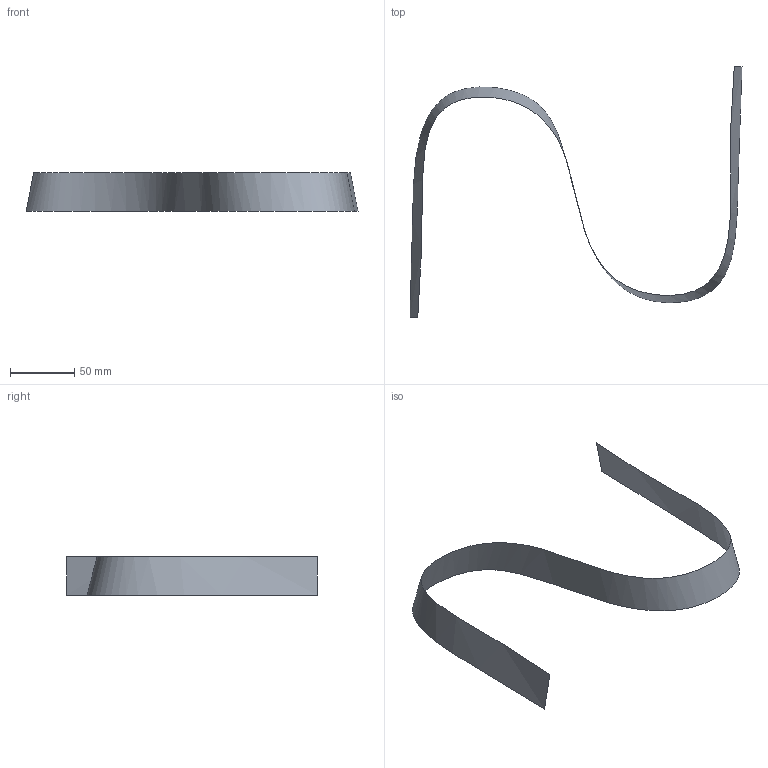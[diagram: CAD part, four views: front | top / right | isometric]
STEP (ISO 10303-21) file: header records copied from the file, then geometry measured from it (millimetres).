
FILE_DESCRIPTION(('Open CASCADE Model'),'2;1');
FILE_NAME('Open CASCADE Shape Model','2022-10-01T16:17:41',('Author'),( 'Open CASCADE'),'Open CASCADE STEP processor 7.6','Open CASCADE 7.6' ,'Unknown');
FILE_SCHEMA(('AUTOMOTIVE_DESIGN { 1 0 10303 214 1 1 1 1 }'));
Length unit declared in the file: millimetre
Products named in the file (1): Open CASCADE STEP translator 7.6 1
Bounding box: 258 x 195 x 30 mm (x, y, z)
Surface area: 19936.6 mm2 (no closed solid volume)
Topology: 0 solids, 1 shells, 1 faces, 4 edges, 4 vertices
Faces by surface type: bspline 1
Entity records: 168 total; most frequent: CARTESIAN_POINT 77, DIRECTION 6, ORIENTED_EDGE 4, EDGE_CURVE 4, VERTEX_POINT 4, SURFACE_CURVE 4, B_SPLINE_CURVE_WITH_KNOTS 4, PCURVE 4
